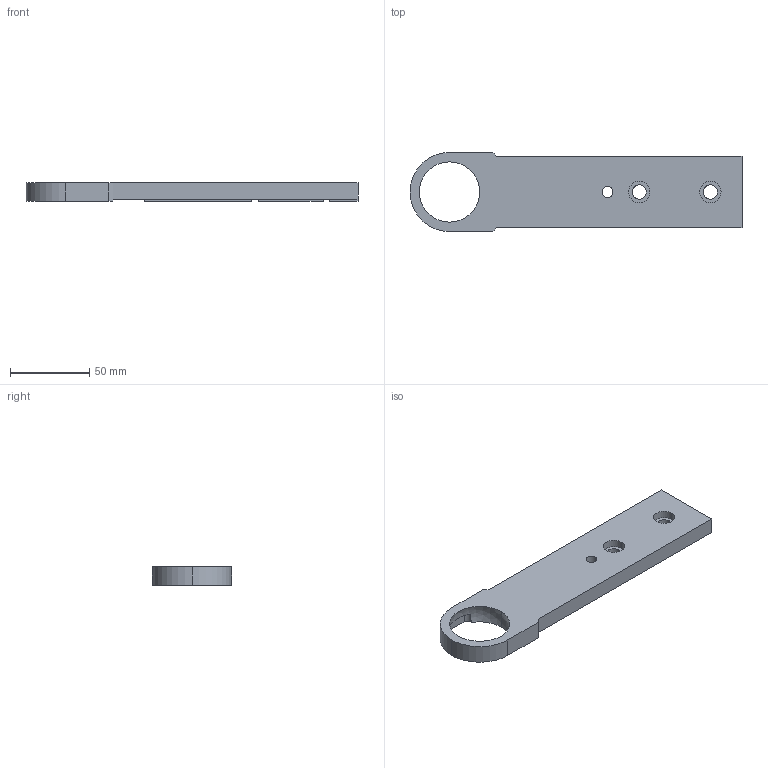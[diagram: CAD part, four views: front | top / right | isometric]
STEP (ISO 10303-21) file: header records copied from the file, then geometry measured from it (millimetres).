
FILE_DESCRIPTION (( 'STEP AP203' ), '1' );
FILE_NAME ('084.807.003.STEP', '2013-01-29T12:41:32', ( 'Alusic' ), ( 'Alusic' ), 'SwSTEP 2.0', 'SolidWorks 2011', '' );
FILE_SCHEMA (( 'CONFIG_CONTROL_DESIGN' ));
Length unit declared in the file: millimetre
Products named in the file (1): 084.807.003
Bounding box: 210 x 50 x 12 mm (x, y, z)
Volume: 86868.9 mm3; surface area: 24728.8 mm2
Topology: 1 solids, 1 shells, 49 faces, 143 edges, 94 vertices
Faces by surface type: plane 31, cylinder 16, sphere 2
Entity records: 1708 total; most frequent: CARTESIAN_POINT 293, DIRECTION 289, ORIENTED_EDGE 278, EDGE_CURVE 139, AXIS2_PLACEMENT_3D 104, VERTEX_POINT 92, LINE 81, VECTOR 81
